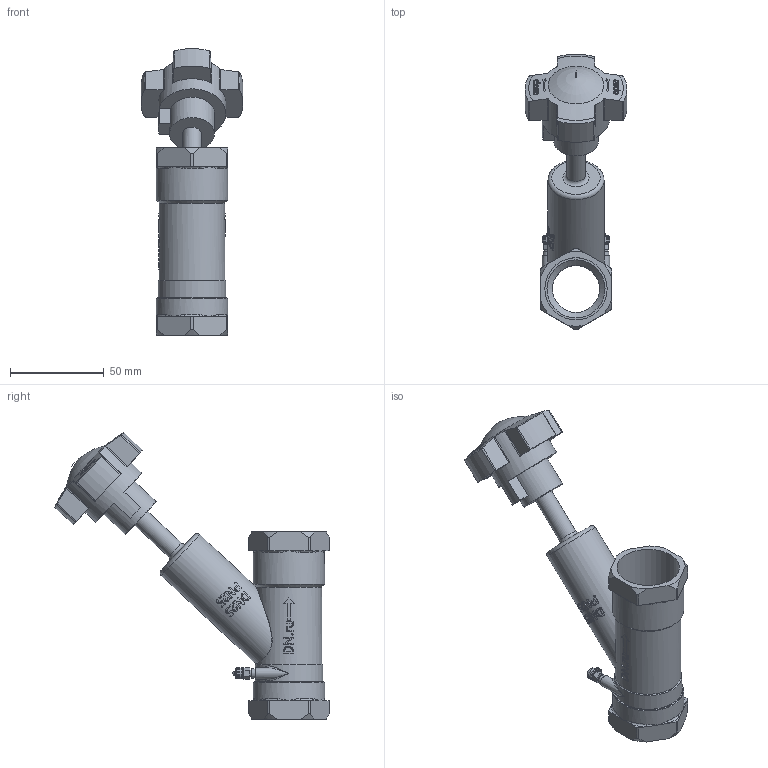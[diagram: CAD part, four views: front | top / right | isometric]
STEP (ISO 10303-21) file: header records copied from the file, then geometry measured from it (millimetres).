
FILE_DESCRIPTION(('STEP AP242'), '1');
FILE_NAME('VB0000P-T Êëàïàí áàëàíñèðîâî÷íûé DN.ru Äó25 Ðó25', '2026-04-26T18:00:49', ('R2D2'), (''), 'C3D Converter', 'C3D Toolkit', '');
FILE_SCHEMA(('AP242_MANAGED_MODEL_BASED_3D_ENGINEERING_MIM_LF { 1 0 10303 442 1 1 4 }'));
Length unit declared in the file: millimetre
Products named in the file (1): VB0000P-T
Bounding box: 54.26 x 146.74 x 152.95 mm (x, y, z)
Volume: 130341 mm3; surface area: 37963.9 mm2
Topology: 1 solids, 2 shells, 769 faces, 2115 edges, 1372 vertices
Faces by surface type: plane 323, extrusion 270, cylinder 90, bspline 30, cone 22, revolution 17, torus 15, sphere 2
Full cylindrical faces by diameter (mm): 2 x2, 4 x6, 5 x2, 6 x2, 10 x1, 24 x1, 25 x1, 26 x1, 30 x1, 33.25 x2, 36 x2, 38 x2
Entity records: 48641 total; most frequent: CARTESIAN_POINT 24994, ORIENTED_EDGE 4098, DIRECTION 2569, EDGE_CURVE 2049, VERTEX_POINT 1369, VECTOR 1144, B_SPLINE_CURVE_WITH_KNOTS 1055, LINE 874
